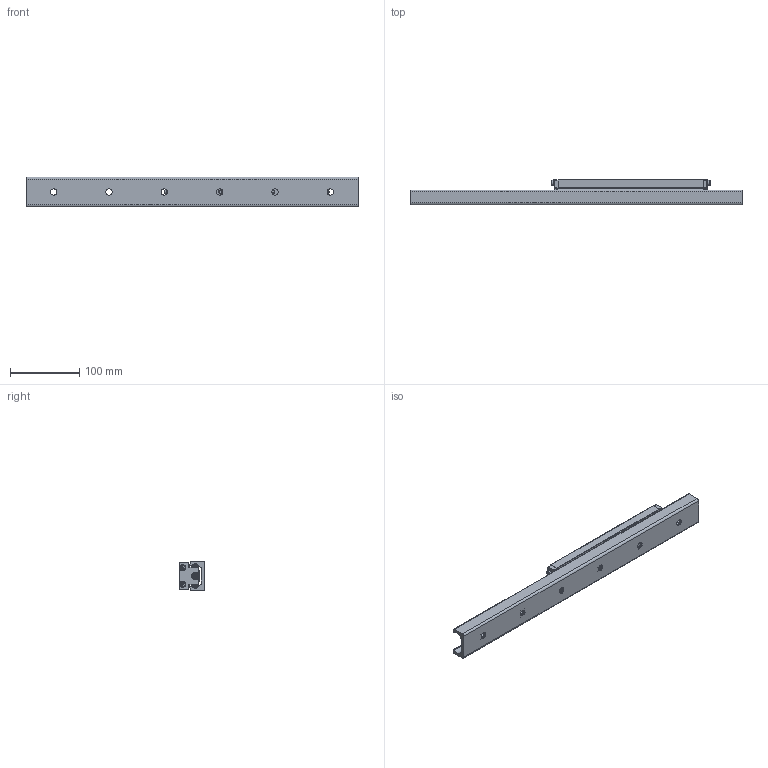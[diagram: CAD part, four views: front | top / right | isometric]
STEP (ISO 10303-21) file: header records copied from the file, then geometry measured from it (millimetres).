
FILE_DESCRIPTION(/* description */ ('STEP AP214'),/* implementation_level */ '2;1');
FILE_NAME(/* name */ 'AWG43RC1SS+480L(2000)',/* time_stamp */ '2024-10-17T13:45:21+02:00',/* author */ ('License CC BY-ND 4.0'),/* organization */ ('CADENAS'),/* preprocessor_version */ 'ST-DEVELOPER v19.3',/* originating_system */ 'PARTsolutions',/* authorisation */ ' ');
FILE_SCHEMA (('AUTOMOTIVE_DESIGN {1 0 10303 214 3 1 1}'));
Length unit declared in the file: millimetre
Products named in the file (5): AWG43RC1SS+480L(2000); AWG43RC1SS+480L A-M6F 200 0_rail; AWG43RC1SS+480L_carriage; AWG43RC_SSL_seal; AWG-RA_A-M6F_grease_nipple
Assembly tree (6 placements, depth 2):
  AWG43RC1SS+480L(2000)
    AWG43RC1SS+480L A-M6F 200 0_rail
    AWG43RC1SS+480L_carriage
    AWG43RC_SSL_seal  x2
    AWG-RA_A-M6F_grease_nipple  x2
Bounding box: 480 x 37 x 43 mm (x, y, z)
Volume: 369189.8 mm3; surface area: 141692.1 mm2
Topology: 6 solids, 16 shells, 1052 faces, 2594 edges, 1663 vertices
Faces by surface type: plane 552, cylinder 334, cone 105, torus 53, sphere 8
Full cylindrical faces by diameter (mm): 2 x4, 3.7 x2, 4 x4, 4.2 x4, 4.92 x5, 5.19 x2, 6 x7, 6.5 x7, 6.6 x5, 6.647 x4, 7 x4, 9 x12, 9.9 x2, 10 x10, 11 x5, 13 x5, 14 x11, 16.5 x7
Entity records: 25768 total; most frequent: CARTESIAN_POINT 4739, DIRECTION 4465, ORIENTED_EDGE 4036, EDGE_CURVE 2018, AXIS2_PLACEMENT_3D 1682, VERTEX_POINT 1394, FACE_BOUND 1188, EDGE_LOOP 1181
